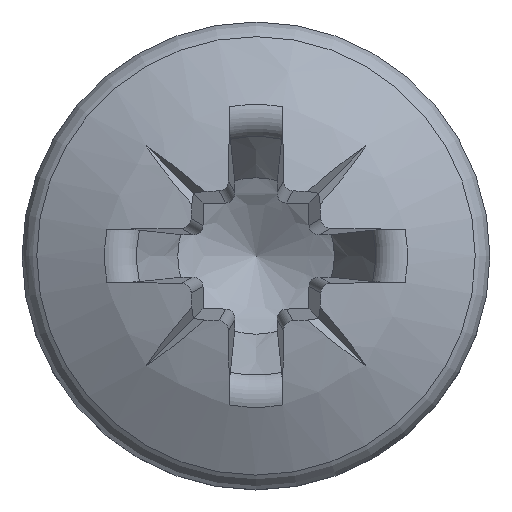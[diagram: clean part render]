
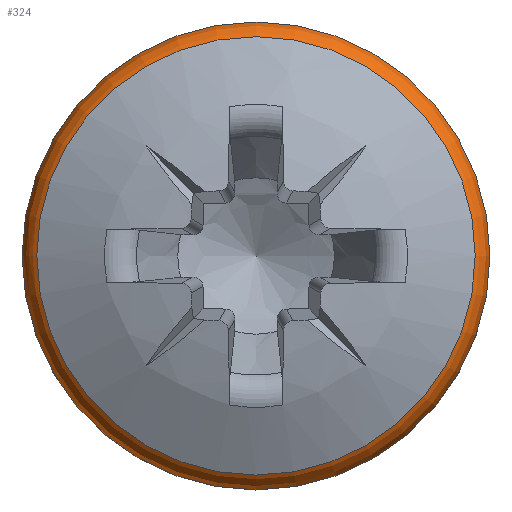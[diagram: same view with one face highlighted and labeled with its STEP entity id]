
A CAD part, top view. The second image highlights one B-rep face of the part: STEP entity #324.
In plain terms, the highlighted toroidal (fillet/blend) face has major radius 3.033 mm and minor radius 0.467 mm.
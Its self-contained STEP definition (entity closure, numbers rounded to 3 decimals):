
#253=TOROIDAL_SURFACE('',#1630,3.033,0.467);
#268=FACE_BOUND('',#511,.T.);
#269=FACE_BOUND('',#512,.T.);
#324=ADVANCED_FACE('',(#268,#269),#253,.T.);
#511=EDGE_LOOP('',(#887));
#512=EDGE_LOOP('',(#888));
#559=CIRCLE('',#1538,3.28);
#594=CIRCLE('',#1579,3.5);
#887=ORIENTED_EDGE('',*,*,#1279,.F.);
#888=ORIENTED_EDGE('',*,*,#1208,.F.);
#1063=VERTEX_POINT('',#2168);
#1131=VERTEX_POINT('',#3630);
#1208=EDGE_CURVE('',#1063,#1063,#559,.T.);
#1279=EDGE_CURVE('',#1131,#1131,#594,.T.);
#1538=AXIS2_PLACEMENT_3D('',#2167,#1645,#1646);
#1579=AXIS2_PLACEMENT_3D('',#3629,#1727,#1728);
#1630=AXIS2_PLACEMENT_3D('',#4106,#1861,#1862);
#1645=DIRECTION('',(0.,0.,1.));
#1646=DIRECTION('',(-1.,0.,0.));
#1727=DIRECTION('',(0.,0.,-1.));
#1728=DIRECTION('',(-1.,0.,0.));
#1861=DIRECTION('',(0.,0.,-1.));
#1862=DIRECTION('',(-1.,0.,0.));
#2167=CARTESIAN_POINT('',(0.,0.,1.763));
#2168=CARTESIAN_POINT('',(-3.28,0.,1.763));
#3629=CARTESIAN_POINT('',(0.,0.,1.367));
#3630=CARTESIAN_POINT('',(-3.5,0.,1.367));
#4106=CARTESIAN_POINT('',(0.,0.,1.367));
